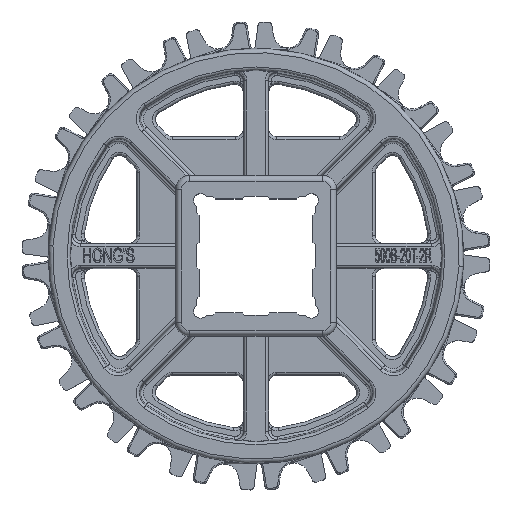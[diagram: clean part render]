
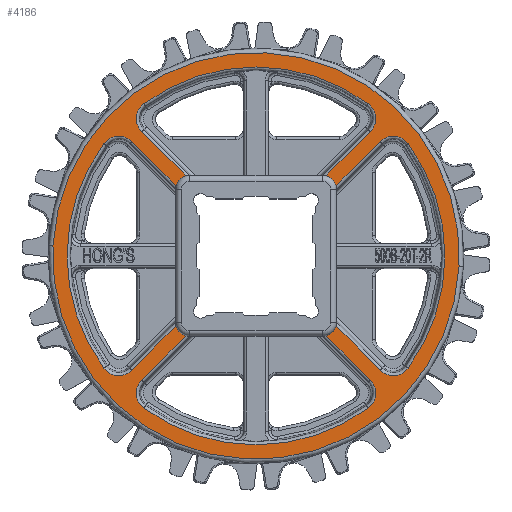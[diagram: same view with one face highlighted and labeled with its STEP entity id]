
A CAD part, top view. The second image highlights one B-rep face of the part: STEP entity #4186.
In plain terms, the highlighted planar face has unit normal (0, 0, 1).
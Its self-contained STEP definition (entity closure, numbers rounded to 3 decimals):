
#4186=ADVANCED_FACE('',(#6156,#6157),#5773,.T.);
#5773=PLANE('',#29776);
#6156=FACE_BOUND('',#6427,.T.);
#6157=FACE_BOUND('',#6428,.T.);
#6427=EDGE_LOOP('',(#12980,#12981));
#6428=EDGE_LOOP('',(#12982,#12983,#12984,#12985,#12986,#12987,#12988,#12989,
#12990,#12991,#12992,#12993,#12994,#12995,#12996,#12997,#12998,#12999,#13000,
#13001,#13002,#13003,#13004,#13005));
#8465=LINE('',#42649,#10286);
#8466=LINE('',#42653,#10287);
#8467=LINE('',#42661,#10288);
#8468=LINE('',#42665,#10289);
#8469=LINE('',#42673,#10290);
#8470=LINE('',#42677,#10291);
#8471=LINE('',#42685,#10292);
#8472=LINE('',#42689,#10293);
#10286=VECTOR('',#34134,1.);
#10287=VECTOR('',#34137,1.);
#10288=VECTOR('',#34144,1.);
#10289=VECTOR('',#34147,1.);
#10290=VECTOR('',#34154,1.);
#10291=VECTOR('',#34157,1.);
#10292=VECTOR('',#34164,1.);
#10293=VECTOR('',#34167,1.);
#12980=ORIENTED_EDGE('',*,*,#24014,.T.);
#12981=ORIENTED_EDGE('',*,*,#24012,.T.);
#12982=ORIENTED_EDGE('',*,*,#24015,.T.);
#12983=ORIENTED_EDGE('',*,*,#24016,.T.);
#12984=ORIENTED_EDGE('',*,*,#24017,.T.);
#12985=ORIENTED_EDGE('',*,*,#24018,.T.);
#12986=ORIENTED_EDGE('',*,*,#24019,.T.);
#12987=ORIENTED_EDGE('',*,*,#24020,.T.);
#12988=ORIENTED_EDGE('',*,*,#24021,.T.);
#12989=ORIENTED_EDGE('',*,*,#24022,.T.);
#12990=ORIENTED_EDGE('',*,*,#24023,.T.);
#12991=ORIENTED_EDGE('',*,*,#24024,.T.);
#12992=ORIENTED_EDGE('',*,*,#24025,.T.);
#12993=ORIENTED_EDGE('',*,*,#24026,.T.);
#12994=ORIENTED_EDGE('',*,*,#24027,.T.);
#12995=ORIENTED_EDGE('',*,*,#24028,.T.);
#12996=ORIENTED_EDGE('',*,*,#24029,.T.);
#12997=ORIENTED_EDGE('',*,*,#24030,.T.);
#12998=ORIENTED_EDGE('',*,*,#24031,.T.);
#12999=ORIENTED_EDGE('',*,*,#24032,.T.);
#13000=ORIENTED_EDGE('',*,*,#24033,.T.);
#13001=ORIENTED_EDGE('',*,*,#24034,.T.);
#13002=ORIENTED_EDGE('',*,*,#24035,.T.);
#13003=ORIENTED_EDGE('',*,*,#24036,.T.);
#13004=ORIENTED_EDGE('',*,*,#24037,.T.);
#13005=ORIENTED_EDGE('',*,*,#24038,.T.);
#21166=VERTEX_POINT('',#42636);
#21168=VERTEX_POINT('',#42640);
#21169=VERTEX_POINT('',#42647);
#21170=VERTEX_POINT('',#42648);
#21171=VERTEX_POINT('',#42650);
#21172=VERTEX_POINT('',#42652);
#21173=VERTEX_POINT('',#42654);
#21174=VERTEX_POINT('',#42656);
#21175=VERTEX_POINT('',#42658);
#21176=VERTEX_POINT('',#42660);
#21177=VERTEX_POINT('',#42662);
#21178=VERTEX_POINT('',#42664);
#21179=VERTEX_POINT('',#42666);
#21180=VERTEX_POINT('',#42668);
#21181=VERTEX_POINT('',#42670);
#21182=VERTEX_POINT('',#42672);
#21183=VERTEX_POINT('',#42674);
#21184=VERTEX_POINT('',#42676);
#21185=VERTEX_POINT('',#42678);
#21186=VERTEX_POINT('',#42680);
#21187=VERTEX_POINT('',#42682);
#21188=VERTEX_POINT('',#42684);
#21189=VERTEX_POINT('',#42686);
#21190=VERTEX_POINT('',#42688);
#21191=VERTEX_POINT('',#42690);
#21192=VERTEX_POINT('',#42692);
#24012=EDGE_CURVE('',#21166,#21168,#27851,.T.);
#24014=EDGE_CURVE('',#21168,#21166,#27853,.T.);
#24015=EDGE_CURVE('',#21169,#21170,#27854,.T.);
#24016=EDGE_CURVE('',#21170,#21171,#8465,.T.);
#24017=EDGE_CURVE('',#21171,#21172,#27855,.T.);
#24018=EDGE_CURVE('',#21172,#21173,#8466,.T.);
#24019=EDGE_CURVE('',#21173,#21174,#27856,.T.);
#24020=EDGE_CURVE('',#21174,#21175,#27857,.T.);
#24021=EDGE_CURVE('',#21175,#21176,#27858,.T.);
#24022=EDGE_CURVE('',#21176,#21177,#8467,.T.);
#24023=EDGE_CURVE('',#21177,#21178,#27859,.T.);
#24024=EDGE_CURVE('',#21178,#21179,#8468,.T.);
#24025=EDGE_CURVE('',#21179,#21180,#27860,.T.);
#24026=EDGE_CURVE('',#21180,#21181,#27861,.T.);
#24027=EDGE_CURVE('',#21181,#21182,#27862,.T.);
#24028=EDGE_CURVE('',#21182,#21183,#8469,.T.);
#24029=EDGE_CURVE('',#21183,#21184,#27863,.T.);
#24030=EDGE_CURVE('',#21184,#21185,#8470,.T.);
#24031=EDGE_CURVE('',#21185,#21186,#27864,.T.);
#24032=EDGE_CURVE('',#21186,#21187,#27865,.T.);
#24033=EDGE_CURVE('',#21187,#21188,#27866,.T.);
#24034=EDGE_CURVE('',#21188,#21189,#8471,.T.);
#24035=EDGE_CURVE('',#21189,#21190,#27867,.T.);
#24036=EDGE_CURVE('',#21190,#21191,#8472,.T.);
#24037=EDGE_CURVE('',#21191,#21192,#27868,.T.);
#24038=EDGE_CURVE('',#21192,#21169,#27869,.T.);
#27851=CIRCLE('',#29755,71.977);
#27853=CIRCLE('',#29758,71.977);
#27854=CIRCLE('',#29760,6.482);
#27855=CIRCLE('',#29761,4.9);
#27856=CIRCLE('',#29762,6.482);
#27857=CIRCLE('',#29763,66.894);
#27858=CIRCLE('',#29764,6.482);
#27859=CIRCLE('',#29765,4.9);
#27860=CIRCLE('',#29766,6.482);
#27861=CIRCLE('',#29767,66.894);
#27862=CIRCLE('',#29768,6.482);
#27863=CIRCLE('',#29769,4.9);
#27864=CIRCLE('',#29770,6.482);
#27865=CIRCLE('',#29771,66.894);
#27866=CIRCLE('',#29772,6.482);
#27867=CIRCLE('',#29773,4.9);
#27868=CIRCLE('',#29774,6.482);
#27869=CIRCLE('',#29775,66.894);
#29755=AXIS2_PLACEMENT_3D('',#42641,#34122,#34123);
#29758=AXIS2_PLACEMENT_3D('',#42644,#34128,#34129);
#29760=AXIS2_PLACEMENT_3D('',#42646,#34132,#34133);
#29761=AXIS2_PLACEMENT_3D('',#42651,#34135,#34136);
#29762=AXIS2_PLACEMENT_3D('',#42655,#34138,#34139);
#29763=AXIS2_PLACEMENT_3D('',#42657,#34140,#34141);
#29764=AXIS2_PLACEMENT_3D('',#42659,#34142,#34143);
#29765=AXIS2_PLACEMENT_3D('',#42663,#34145,#34146);
#29766=AXIS2_PLACEMENT_3D('',#42667,#34148,#34149);
#29767=AXIS2_PLACEMENT_3D('',#42669,#34150,#34151);
#29768=AXIS2_PLACEMENT_3D('',#42671,#34152,#34153);
#29769=AXIS2_PLACEMENT_3D('',#42675,#34155,#34156);
#29770=AXIS2_PLACEMENT_3D('',#42679,#34158,#34159);
#29771=AXIS2_PLACEMENT_3D('',#42681,#34160,#34161);
#29772=AXIS2_PLACEMENT_3D('',#42683,#34162,#34163);
#29773=AXIS2_PLACEMENT_3D('',#42687,#34165,#34166);
#29774=AXIS2_PLACEMENT_3D('',#42691,#34168,#34169);
#29775=AXIS2_PLACEMENT_3D('',#42693,#34170,#34171);
#29776=AXIS2_PLACEMENT_3D('',#42694,#34172,#34173);
#34122=DIRECTION('',(0.,0.,1.));
#34123=DIRECTION('',(0.999,-0.052,0.));
#34128=DIRECTION('',(0.,0.,1.));
#34129=DIRECTION('',(0.999,-0.052,0.));
#34132=DIRECTION('',(0.,0.,-1.));
#34133=DIRECTION('',(1.,0.,0.));
#34134=DIRECTION('',(-0.707,0.707,0.));
#34135=DIRECTION('',(0.,0.,-1.));
#34136=DIRECTION('',(1.,0.,0.));
#34137=DIRECTION('',(0.707,-0.707,0.));
#34138=DIRECTION('',(0.,0.,-1.));
#34139=DIRECTION('',(1.,0.,0.));
#34140=DIRECTION('',(0.,0.,-1.));
#34141=DIRECTION('',(1.,0.,0.));
#34142=DIRECTION('',(0.,0.,-1.));
#34143=DIRECTION('',(1.,0.,0.));
#34144=DIRECTION('',(0.707,0.707,0.));
#34145=DIRECTION('',(0.,0.,-1.));
#34146=DIRECTION('',(1.,0.,0.));
#34147=DIRECTION('',(-0.707,-0.707,0.));
#34148=DIRECTION('',(0.,0.,-1.));
#34149=DIRECTION('',(1.,0.,0.));
#34150=DIRECTION('',(0.,0.,-1.));
#34151=DIRECTION('',(1.,0.,0.));
#34152=DIRECTION('',(0.,0.,-1.));
#34153=DIRECTION('',(1.,0.,0.));
#34154=DIRECTION('',(0.707,-0.707,0.));
#34155=DIRECTION('',(0.,0.,-1.));
#34156=DIRECTION('',(1.,0.,0.));
#34157=DIRECTION('',(-0.707,0.707,0.));
#34158=DIRECTION('',(0.,0.,-1.));
#34159=DIRECTION('',(1.,0.,0.));
#34160=DIRECTION('',(0.,0.,-1.));
#34161=DIRECTION('',(1.,0.,0.));
#34162=DIRECTION('',(0.,0.,-1.));
#34163=DIRECTION('',(1.,0.,0.));
#34164=DIRECTION('',(-0.707,-0.707,0.));
#34165=DIRECTION('',(0.,0.,-1.));
#34166=DIRECTION('',(1.,0.,0.));
#34167=DIRECTION('',(0.707,0.707,0.));
#34168=DIRECTION('',(0.,0.,-1.));
#34169=DIRECTION('',(1.,0.,0.));
#34170=DIRECTION('',(0.,0.,-1.));
#34171=DIRECTION('',(1.,0.,0.));
#34172=DIRECTION('',(0.,0.,1.));
#34173=DIRECTION('',(0.,1.,0.));
#42636=CARTESIAN_POINT('',(712.122,3.767,12.495));
#42640=CARTESIAN_POINT('',(855.878,-3.767,12.495));
#42641=CARTESIAN_POINT('',(784.,0.,12.495));
#42644=CARTESIAN_POINT('',(784.,0.,12.495));
#42646=CARTESIAN_POINT('',(832.602,-35.88,12.495));
#42647=CARTESIAN_POINT('',(837.818,-39.73,12.495));
#42648=CARTESIAN_POINT('',(828.019,-40.463,12.495));
#42649=CARTESIAN_POINT('',(821.587,-34.032,12.495));
#42650=CARTESIAN_POINT('',(812.286,-24.731,12.495));
#42651=CARTESIAN_POINT('',(807.535,-23.535,12.495));
#42652=CARTESIAN_POINT('',(808.731,-28.286,12.495));
#42653=CARTESIAN_POINT('',(4237.005,-3456.56,12.495));
#42654=CARTESIAN_POINT('',(824.463,-44.019,12.495));
#42655=CARTESIAN_POINT('',(819.88,-48.602,12.495));
#42656=CARTESIAN_POINT('',(823.73,-53.818,12.495));
#42657=CARTESIAN_POINT('',(784.,0.,12.495));
#42658=CARTESIAN_POINT('',(744.27,-53.818,12.495));
#42659=CARTESIAN_POINT('',(748.12,-48.602,12.495));
#42660=CARTESIAN_POINT('',(743.537,-44.019,12.495));
#42661=CARTESIAN_POINT('',(749.968,-37.587,12.495));
#42662=CARTESIAN_POINT('',(759.269,-28.286,12.495));
#42663=CARTESIAN_POINT('',(760.465,-23.535,12.495));
#42664=CARTESIAN_POINT('',(755.714,-24.731,12.495));
#42665=CARTESIAN_POINT('',(-22572.875,-23353.32,12.495));
#42666=CARTESIAN_POINT('',(739.981,-40.463,12.495));
#42667=CARTESIAN_POINT('',(735.398,-35.88,12.495));
#42668=CARTESIAN_POINT('',(730.182,-39.73,12.495));
#42669=CARTESIAN_POINT('',(784.,0.,12.495));
#42670=CARTESIAN_POINT('',(730.182,39.73,12.495));
#42671=CARTESIAN_POINT('',(735.398,35.88,12.495));
#42672=CARTESIAN_POINT('',(739.981,40.463,12.495));
#42673=CARTESIAN_POINT('',(746.413,34.032,12.495));
#42674=CARTESIAN_POINT('',(755.714,24.731,12.495));
#42675=CARTESIAN_POINT('',(760.465,23.535,12.495));
#42676=CARTESIAN_POINT('',(759.269,28.286,12.495));
#42677=CARTESIAN_POINT('',(4240.56,-3453.005,12.495));
#42678=CARTESIAN_POINT('',(743.537,44.019,12.495));
#42679=CARTESIAN_POINT('',(748.12,48.602,12.495));
#42680=CARTESIAN_POINT('',(744.27,53.818,12.495));
#42681=CARTESIAN_POINT('',(784.,0.,12.495));
#42682=CARTESIAN_POINT('',(823.73,53.818,12.495));
#42683=CARTESIAN_POINT('',(819.88,48.602,12.495));
#42684=CARTESIAN_POINT('',(824.463,44.019,12.495));
#42685=CARTESIAN_POINT('',(818.032,37.587,12.495));
#42686=CARTESIAN_POINT('',(808.731,28.286,12.495));
#42687=CARTESIAN_POINT('',(807.535,23.535,12.495));
#42688=CARTESIAN_POINT('',(812.286,24.731,12.495));
#42689=CARTESIAN_POINT('',(-22569.32,-23356.875,12.495));
#42690=CARTESIAN_POINT('',(828.019,40.463,12.495));
#42691=CARTESIAN_POINT('',(832.602,35.88,12.495));
#42692=CARTESIAN_POINT('',(837.818,39.73,12.495));
#42693=CARTESIAN_POINT('',(784.,0.,12.495));
#42694=CARTESIAN_POINT('',(-19116.315,-26809.88,12.495));
